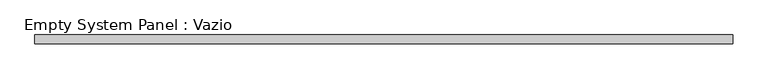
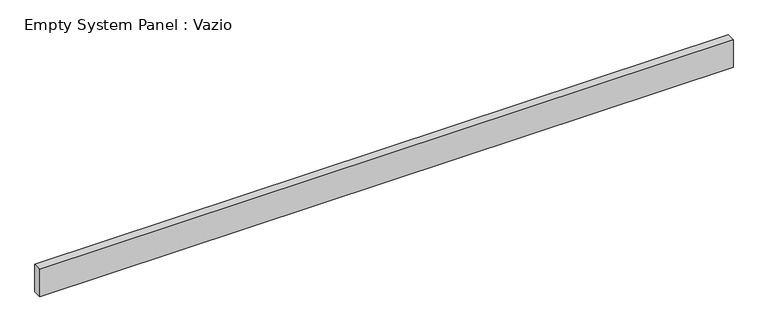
"""IFC4 building model written with IfcOpenShell, lengths in millimetres: plate geometry, Empty System Panel : Vazio."""

from ifc_helpers import new_model, si_unit, origin, origin_with_axes, place, context, project, spatial, polyline, outline, extrude, source, transform, mapped, element, save


def empty_system_panel_vazio_8cae14d4(model_context):
    return source(origin(), model_context, "Body", "SweptSolid", [
        extrude(outline(polyline([(4000.0, 50.0), (-4000.0, 50.0), (-4000.0, 150.0), (4000.0, 150.0), (4000.0, 50.0)])), origin_with_axes(), (0.0, 0.0, 1.0), 333.1295366),
    ])


if __name__ == "__main__":
    model = new_model("IFC4")
    model_context = context("Model", 3, world=origin())
    ifc_project = project(units=[si_unit("LENGTHUNIT", "METRE", prefix="MILLI")], contexts=[model_context])
    site = spatial("IfcSite", under=ifc_project)
    building = spatial("IfcBuilding", under=site)
    placement = place(None, origin())
    empty_system_panel_vazio_shape = empty_system_panel_vazio_8cae14d4(model_context)
    element("IfcPlate", 1, ObjectType="Empty System Panel : Vazio", at=placement, inside=building, context=model_context, shape_type="MappedRepresentation", body=[
        mapped(empty_system_panel_vazio_shape, transform((0.0, 0.0, 0.0), x_axis=(1.0, 0.0, 0.0), y_axis=(0.0, 1.0, 0.0), z_axis=(0.0, 0.0, 1.0))),
    ])
    save(model, "model.ifc")
